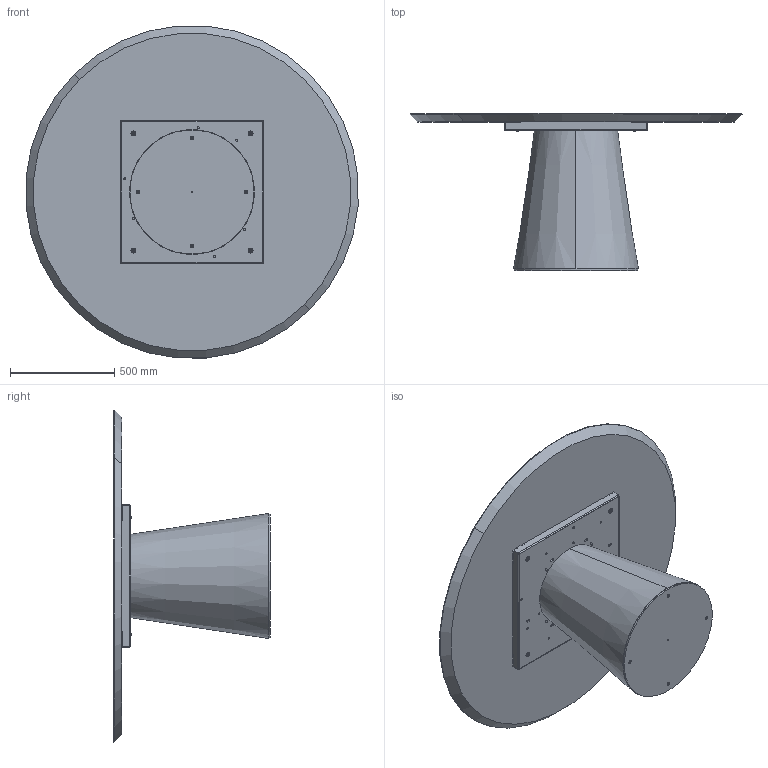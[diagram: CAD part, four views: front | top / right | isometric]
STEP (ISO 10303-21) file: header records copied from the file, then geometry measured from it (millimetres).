
FILE_DESCRIPTION (( 'STEP AP203' ), '1' );
FILE_NAME ('TO08W_Teo_d.160_Wood.STEP', '2024-08-02T09:23:31', ( '' ), ( '' ), 'SwSTEP 2.0', 'SolidWorks 2022', '' );
FILE_SCHEMA (( 'CONFIG_CONTROL_DESIGN' ));
Length unit declared in the file: millimetre
Products named in the file (12): TEO0000-00-TEO BASE LEGNO IMPIALLACCIATA LEVIGATO PRONTA X VERNICE; M8xXXmm_hex_M8X20mm; rondella M8_8X24; BASE TED LEGNO CON ZAVORRA; W1XCMXX-00-Piani Rotondi legno_D.1600; TTAV0801 TELAIO UNIVERSALE TONDO-PIASTRINA; TO08W_Teo_d.160_Wood; COLLO TELAIO UNIVERSALE TTAV0801 CON FERRAMENTA_MTG TOP LEGNO-MARMO-KING; M8xXXmm_M8x55mm; TTAV0801-02-TELAIO UNIVERSALE TONDO; TTAV0801-02-TELAIO UNIVERSALE TONDO-VASSOIO; TEO000000PIA-00-TEO PIASTRA DI BASE IN METALLO GREZZO
Assembly tree (23 placements, depth 4):
  TO08W_Teo_d.160_Wood
    BASE TED LEGNO CON ZAVORRA
      TEO000000PIA-00-TEO PIASTRA DI BASE IN METALLO GREZZO
      TEO0000-00-TEO BASE LEGNO IMPIALLACCIATA LEVIGATO PRONTA X VERNICE
      M8xXXmm_hex_M8X20mm  x4
    COLLO TELAIO UNIVERSALE TTAV0801 CON FERRAMENTA_MTG TOP LEGNO-MARMO-KING
      TTAV0801-02-TELAIO UNIVERSALE TONDO
        TTAV0801-02-TELAIO UNIVERSALE TONDO-VASSOIO
        TTAV0801 TELAIO UNIVERSALE TONDO-PIASTRINA  x4
      rondella M8_8X24  x4
      M8xXXmm_M8x55mm  x4
    W1XCMXX-00-Piani Rotondi legno_D.1600
Bounding box: 1593.91 x 753.19 x 1593.91 mm (x, y, z)
Volume: 107281617.4 mm3; surface area: 8539824.1 mm2
Topology: 20 solids, 20 shells, 806 faces, 2014 edges, 1238 vertices
Faces by surface type: plane 370, cylinder 290, cone 90, torus 56
Entity records: 15616 total; most frequent: DIRECTION 2540, CARTESIAN_POINT 2450, ORIENTED_EDGE 2330, EDGE_CURVE 1165, AXIS2_PLACEMENT_3D 919, VERTEX_POINT 743, VECTOR 702, LINE 702
